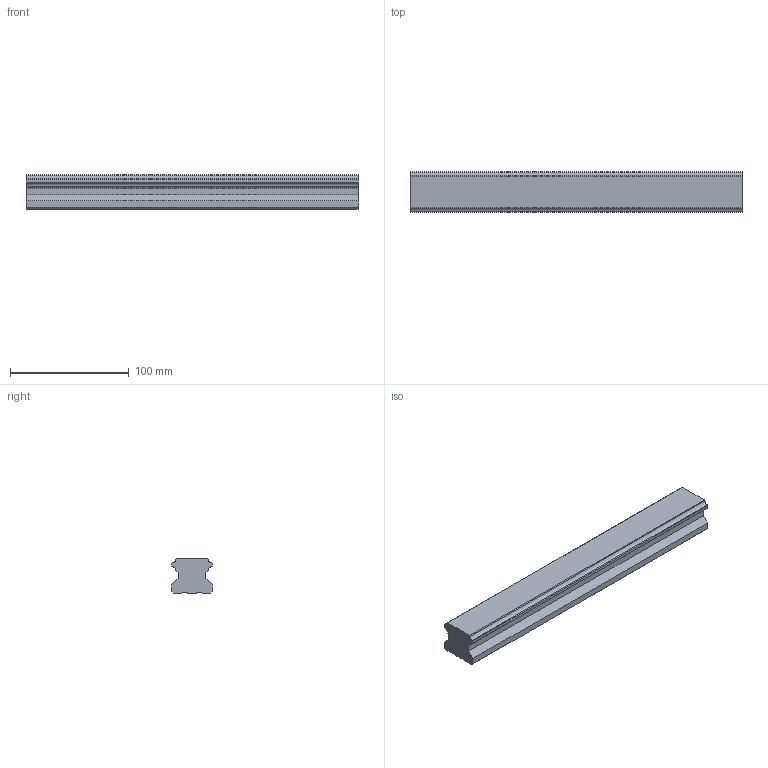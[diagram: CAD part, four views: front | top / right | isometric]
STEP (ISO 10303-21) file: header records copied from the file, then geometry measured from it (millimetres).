
FILE_DESCRIPTION(('starvars output'),'2;1');
FILE_NAME('cv20190626230609000076788.stp','23:06:09 2019/06/26',( 'Thomas Industrial Network Germany GmbH'),( 'Thomas Industrial Network Germany GmbH'),'unknown preprocess','ACIS' ,'unknown authorization');
FILE_SCHEMA(('CONFIG_CONTROL_DESIGN {UNKNOWN IMPLEMENTATION LEVEL}'));
Length unit declared in the file: millimetre
Products named in the file (1): PRODUCT_ID_1
Bounding box: 280 x 34 x 29 mm (x, y, z)
Volume: 233945.6 mm3; surface area: 39836.9 mm2
Topology: 1 solids, 1 shells, 98 faces, 248 edges, 148 vertices
Faces by surface type: plane 46, cylinder 28, cone 24
Entity records: 2493 total; most frequent: ORIENTED_EDGE 480, CARTESIAN_POINT 390, DIRECTION 356, EDGE_CURVE 240, VERTEX_POINT 148, VECTOR 128, LINE 128, AXIS2_PLACEMENT_3D 114
